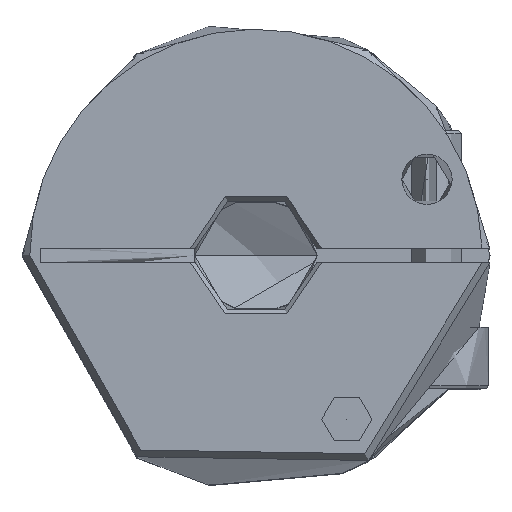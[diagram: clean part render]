
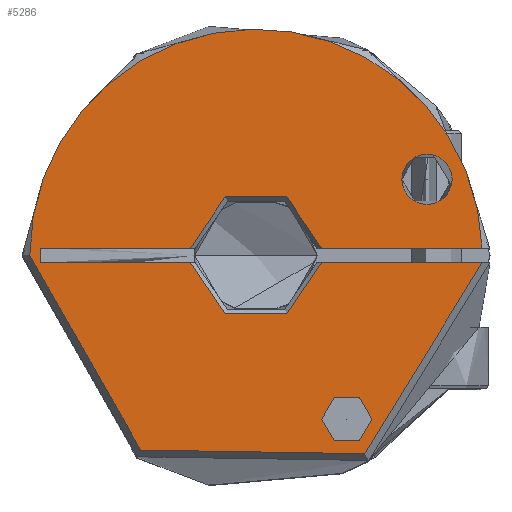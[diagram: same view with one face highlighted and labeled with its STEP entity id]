
A CAD part, top view. The second image highlights one B-rep face of the part: STEP entity #5286.
In plain terms, the highlighted planar face has unit normal (0, 0, 1).
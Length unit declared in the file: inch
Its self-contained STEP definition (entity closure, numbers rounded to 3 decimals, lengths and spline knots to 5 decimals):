
#1839=CARTESIAN_POINT('',(0.,0.,0.6));
#1840=DIRECTION('',(0.,0.,1.));
#1841=DIRECTION('',(0.999,0.032,0.));
#1842=AXIS2_PLACEMENT_3D('',#1839,#1840,#1841);
#1844=CARTESIAN_POINT('',(0.,0.,0.6));
#1845=DIRECTION('',(0.,0.,1.));
#1846=DIRECTION('',(-1.,0.,0.));
#1847=AXIS2_PLACEMENT_3D('',#1844,#1845,#1846);
#1861=CARTESIAN_POINT('',(0.21055,0.0234,0.6));
#1863=DIRECTION('',(1.,0.,0.));
#1864=VECTOR('',#1863,0.51407);
#1865=CARTESIAN_POINT('',(0.21055,0.0234,0.6));
#1866=LINE('',#1865,#1864);
#1892=CARTESIAN_POINT('',(-0.21055,0.0234,0.6));
#1899=CARTESIAN_POINT('',(0.,0.,0.6));
#1900=DIRECTION('',(0.,0.,-1.));
#1901=DIRECTION('',(-0.994,0.11,0.));
#1902=AXIS2_PLACEMENT_3D('',#1899,#1900,#1901);
#1904=DIRECTION('',(1.,0.,0.));
#1905=VECTOR('',#1904,0.47945);
#1906=CARTESIAN_POINT('',(-0.69,0.0234,0.6));
#1907=LINE('',#1906,#1905);
#1908=DIRECTION('',(0.,-1.,0.));
#1909=VECTOR('',#1908,0.0468);
#1910=CARTESIAN_POINT('',(-0.69,0.0234,0.6));
#1911=LINE('',#1910,#1909);
#1912=DIRECTION('',(-1.,0.,0.));
#1913=VECTOR('',#1912,0.47945);
#1914=CARTESIAN_POINT('',(-0.21055,-0.0234,0.6));
#1915=LINE('',#1914,#1913);
#1916=CARTESIAN_POINT('',(0.,0.,0.6));
#1917=DIRECTION('',(0.,0.,-1.));
#1918=DIRECTION('',(0.994,-0.11,0.));
#1919=AXIS2_PLACEMENT_3D('',#1916,#1917,#1918);
#1921=DIRECTION('',(-1.,0.,0.));
#1922=VECTOR('',#1921,0.51407);
#1923=CARTESIAN_POINT('',(0.72462,-0.0234,0.6));
#1924=LINE('',#1923,#1922);
#1925=CARTESIAN_POINT('',(0.29089,-0.52477,0.6));
#1926=DIRECTION('',(0.,0.,-1.));
#1927=DIRECTION('',(-1.,0.,0.));
#1928=AXIS2_PLACEMENT_3D('',#1925,#1926,#1927);
#1930=CARTESIAN_POINT('',(0.54813,0.24404,0.6));
#1931=DIRECTION('',(0.,0.,-1.));
#1932=DIRECTION('',(-1.,0.,0.));
#1933=AXIS2_PLACEMENT_3D('',#1930,#1931,#1932);
#1935=CARTESIAN_POINT('',(0.54813,0.24404,0.6));
#1936=DIRECTION('',(0.,0.,-1.));
#1937=DIRECTION('',(1.,0.,0.));
#1938=AXIS2_PLACEMENT_3D('',#1935,#1936,#1937);
#2024=CARTESIAN_POINT('',(0.29089,-0.52477,0.6));
#2025=DIRECTION('',(0.,0.,-1.));
#2026=DIRECTION('',(1.,0.,0.));
#2027=AXIS2_PLACEMENT_3D('',#2024,#2025,#2026);
#3653=VERTEX_POINT('',#1861);
#3656=VERTEX_POINT('',#1892);
#3657=CARTESIAN_POINT('',(-0.725,0.,0.6));
#3658=CARTESIAN_POINT('',(0.72462,-0.0234,0.6));
#3659=VERTEX_POINT('',#3657);
#3660=VERTEX_POINT('',#3658);
#3661=CARTESIAN_POINT('',(0.72462,0.0234,0.6));
#3662=VERTEX_POINT('',#3661);
#3663=CARTESIAN_POINT('',(-0.69,0.0234,0.6));
#3664=VERTEX_POINT('',#3663);
#3665=CARTESIAN_POINT('',(-0.21055,-0.0234,0.6));
#3666=CARTESIAN_POINT('',(-0.69,-0.0234,0.6));
#3667=VERTEX_POINT('',#3665);
#3668=VERTEX_POINT('',#3666);
#3669=CARTESIAN_POINT('',(0.21055,-0.0234,0.6));
#3670=VERTEX_POINT('',#3669);
#3671=CARTESIAN_POINT('',(0.21039,-0.52477,0.6));
#3672=CARTESIAN_POINT('',(0.37139,-0.52477,0.6));
#3673=VERTEX_POINT('',#3671);
#3674=VERTEX_POINT('',#3672);
#3675=CARTESIAN_POINT('',(0.46763,0.24404,0.6));
#3676=CARTESIAN_POINT('',(0.62863,0.24404,0.6));
#3677=VERTEX_POINT('',#3675);
#3678=VERTEX_POINT('',#3676);
#5254=CARTESIAN_POINT('',(0.,0.,0.6));
#5255=DIRECTION('',(0.,0.,1.));
#5256=DIRECTION('',(1.,0.,0.));
#5257=AXIS2_PLACEMENT_3D('',#5254,#5255,#5256);
#5258=PLANE('',#5257);
#5259=ORIENTED_EDGE('',*,*,#5209,.F.);
#5260=ORIENTED_EDGE('',*,*,#5207,.F.);
#5261=ORIENTED_EDGE('',*,*,#5222,.F.);
#5262=ORIENTED_EDGE('',*,*,#5244,.F.);
#5264=ORIENTED_EDGE('',*,*,#5263,.F.);
#5266=ORIENTED_EDGE('',*,*,#5265,.T.);
#5268=ORIENTED_EDGE('',*,*,#5267,.F.);
#5270=ORIENTED_EDGE('',*,*,#5269,.F.);
#5271=ORIENTED_EDGE('',*,*,#5182,.F.);
#5272=EDGE_LOOP('',(#5259,#5260,#5261,#5262,#5264,#5266,#5268,#5270,#5271));
#5273=FACE_OUTER_BOUND('',#5272,.F.);
#5275=ORIENTED_EDGE('',*,*,#5274,.F.);
#5277=ORIENTED_EDGE('',*,*,#5276,.F.);
#5278=EDGE_LOOP('',(#5275,#5277));
#5279=FACE_BOUND('',#5278,.F.);
#5281=ORIENTED_EDGE('',*,*,#5280,.F.);
#5283=ORIENTED_EDGE('',*,*,#5282,.F.);
#5284=EDGE_LOOP('',(#5281,#5283));
#5285=FACE_BOUND('',#5284,.F.);
#1843=CIRCLE('',#1842,0.725);
#1848=CIRCLE('',#1847,0.725);
#1903=CIRCLE('',#1902,0.21185);
#1920=CIRCLE('',#1919,0.21185);
#1929=CIRCLE('',#1928,0.0805);
#1934=CIRCLE('',#1933,0.0805);
#1939=CIRCLE('',#1938,0.0805);
#2028=CIRCLE('',#2027,0.0805);
#5182=EDGE_CURVE('',#3660,#3670,#1924,.T.);
#5207=EDGE_CURVE('',#3662,#3659,#1843,.T.);
#5209=EDGE_CURVE('',#3659,#3660,#1848,.T.);
#5222=EDGE_CURVE('',#3653,#3662,#1866,.T.);
#5244=EDGE_CURVE('',#3656,#3653,#1903,.T.);
#5263=EDGE_CURVE('',#3664,#3656,#1907,.T.);
#5265=EDGE_CURVE('',#3664,#3668,#1911,.T.);
#5267=EDGE_CURVE('',#3667,#3668,#1915,.T.);
#5269=EDGE_CURVE('',#3670,#3667,#1920,.T.);
#5274=EDGE_CURVE('',#3673,#3674,#1929,.T.);
#5276=EDGE_CURVE('',#3674,#3673,#2028,.T.);
#5280=EDGE_CURVE('',#3677,#3678,#1934,.T.);
#5282=EDGE_CURVE('',#3678,#3677,#1939,.T.);
#5286=ADVANCED_FACE('',(#5273,#5279,#5285),#5258,.T.);
